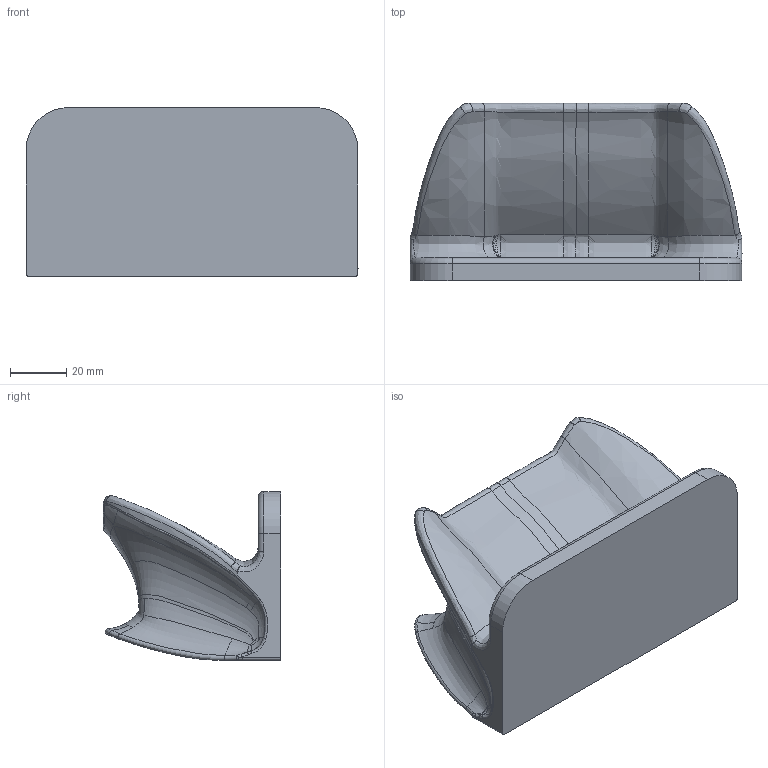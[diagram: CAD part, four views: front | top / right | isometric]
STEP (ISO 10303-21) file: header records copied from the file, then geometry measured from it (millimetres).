
FILE_DESCRIPTION(/* description */ ('','CAx-IF Rec.Pracs.---Representation and Presentation of Product Manufacturing Information (PMI)---4.0---2014-10-13'),/* implementation_level */ '2;1');
FILE_NAME(/* name */ 'PS5 Controller Stand.step',/* time_stamp */ '2024-12-10T18:38:14+02:00',/* author */ (''),/* organization */ (''),/* preprocessor_version */ 'ST-DEVELOPER v20',/* originating_system */ 'Autodesk Translation Framework v13.20.0.188',/* authorisation */ '');
FILE_SCHEMA (('AP242_MANAGED_MODEL_BASED_3D_ENGINEERING_MIM_LF { 1 0 10303 442 1 1 4 }'));
Products named in the file (1): PS5 Ohjain Versio 6
Bounding box: 118 x 63 x 60.01 mm (x, y, z)
Volume: 223554.9 mm3; surface area: 34425.5 mm2
Topology: 1 solids, 1 shells, 166 faces, 528 edges, 353 vertices
Faces by surface type: bspline 147, cylinder 7, plane 7, sphere 2, torus 2, cone 1
Entity records: 88537 total; most frequent: CARTESIAN_POINT 85097, ORIENTED_EDGE 1034, EDGE_CURVE 517, B_SPLINE_CURVE_WITH_KNOTS 425, VERTEX_POINT 353, DIRECTION 202, FACE_OUTER_BOUND 166, EDGE_LOOP 166
